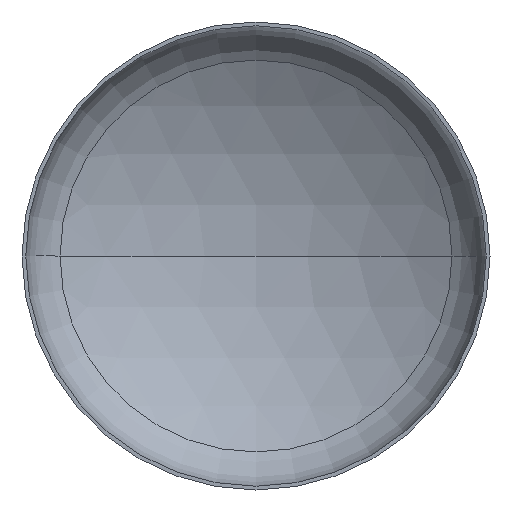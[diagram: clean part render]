
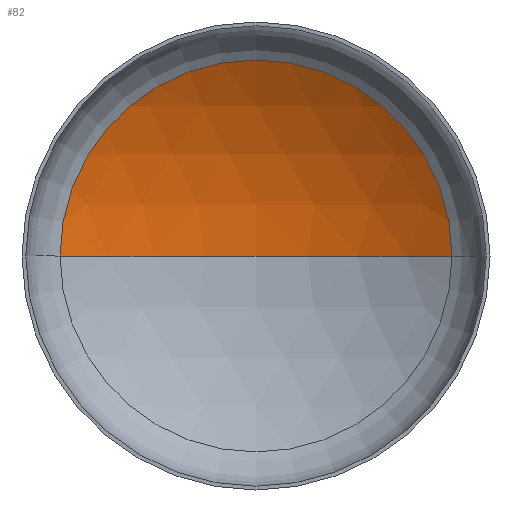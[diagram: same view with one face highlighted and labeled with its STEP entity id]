
A CAD part, front view. The second image highlights one B-rep face of the part: STEP entity #82.
In plain terms, the highlighted spherical face has radius 2080 mm.
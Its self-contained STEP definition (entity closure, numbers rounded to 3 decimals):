
#5 = AXIS2_PLACEMENT_3D ( 'NONE', #295, #405, #58 ) ;
#10 = AXIS2_PLACEMENT_3D ( 'NONE', #380, #211, #326 ) ;
#13 = AXIS2_PLACEMENT_3D ( 'NONE', #105, #108, #335 ) ;
#28 = AXIS2_PLACEMENT_3D ( 'NONE', #176, #261, #174 ) ;
#58 = DIRECTION ( 'NONE',  ( 1., 0., 0. ) ) ;
#77 = CIRCLE ( 'NONE', #13, 2080. ) ;
#78 = ORIENTED_EDGE ( 'NONE', *, *, #317, .T. ) ;
#82 = ADVANCED_FACE ( 'NONE', ( #115 ), #347, .F. ) ;
#88 = ORIENTED_EDGE ( 'NONE', *, *, #329, .F. ) ;
#105 = CARTESIAN_POINT ( 'NONE',  ( 0., -1361.698, 0. ) ) ;
#108 = DIRECTION ( 'NONE',  ( 0., 0., -1. ) ) ;
#115 = FACE_OUTER_BOUND ( 'NONE', #246, .T. ) ;
#119 = CARTESIAN_POINT ( 'NONE',  ( 0., 718.302, 0. ) ) ;
#174 = DIRECTION ( 'NONE',  ( -1., 0., 0. ) ) ;
#176 = CARTESIAN_POINT ( 'NONE',  ( 0., -1361.698, 0. ) ) ;
#193 = VERTEX_POINT ( 'NONE', #212 ) ;
#207 = CARTESIAN_POINT ( 'NONE',  ( -1088.286, 410.88, 0. ) ) ;
#211 = DIRECTION ( 'NONE',  ( 0., 0., 1. ) ) ;
#212 = CARTESIAN_POINT ( 'NONE',  ( 1088.286, 410.88, 0. ) ) ;
#227 = CIRCLE ( 'NONE', #5, 1088.286 ) ;
#240 = VERTEX_POINT ( 'NONE', #207 ) ;
#246 = EDGE_LOOP ( 'NONE', ( #88, #78, #401 ) ) ;
#261 = DIRECTION ( 'NONE',  ( 0., 0., -1. ) ) ;
#265 = VERTEX_POINT ( 'NONE', #119 ) ;
#295 = CARTESIAN_POINT ( 'NONE',  ( 0., 410.88, 0. ) ) ;
#309 = CIRCLE ( 'NONE', #10, 2080. ) ;
#317 = EDGE_CURVE ( 'NONE', #265, #193, #77, .T. ) ;
#326 = DIRECTION ( 'NONE',  ( 1., 0., 0. ) ) ;
#329 = EDGE_CURVE ( 'NONE', #265, #240, #309, .T. ) ;
#335 = DIRECTION ( 'NONE',  ( -1., 0., 0. ) ) ;
#347 = SPHERICAL_SURFACE ( 'NONE', #28, 2080. ) ;
#348 = EDGE_CURVE ( 'NONE', #193, #240, #227, .T. ) ;
#380 = CARTESIAN_POINT ( 'NONE',  ( 0., -1361.698, 0. ) ) ;
#401 = ORIENTED_EDGE ( 'NONE', *, *, #348, .T. ) ;
#405 = DIRECTION ( 'NONE',  ( 0., -1., 0. ) ) ;
